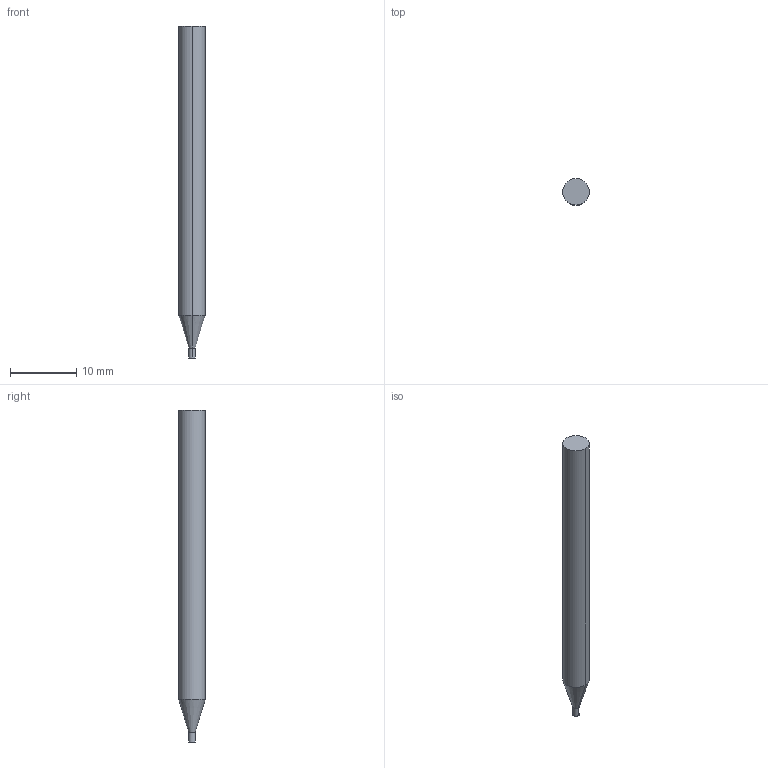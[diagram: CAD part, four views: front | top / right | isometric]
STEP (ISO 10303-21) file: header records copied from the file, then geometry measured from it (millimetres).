
FILE_DESCRIPTION((' '),'2;1');
FILE_NAME( '3MVSM0100AH.stp', '2026-01-21T19:27:04', (' '), ('--- Datakit www.datakit.com---'), ' Datakit CrossCadWare V2025.4 Sep 19 2025', 'Mastercam 2027', ' ');
FILE_SCHEMA(('AUTOMOTIVE_DESIGN { 1 0 10303 214 1 1 1 1 }'));
Length unit declared in the file: inch
Products named in the file (1): 3MVSM0100AH
Bounding box: 4 x 4 x 50 mm (x, y, z)
Volume: 576.1 mm3; surface area: 606.2 mm2
Topology: 1 solids, 1 shells, 8 faces, 14 edges, 8 vertices
Faces by surface type: cylinder 4, plane 2, cone 2
Entity records: 264 total; most frequent: DIRECTION 48, CARTESIAN_POINT 35, ORIENTED_EDGE 28, AXIS2_PLACEMENT_3D 21, EDGE_CURVE 14, VERTEX_POINT 8, CIRCLE 8, EDGE_LOOP 8
